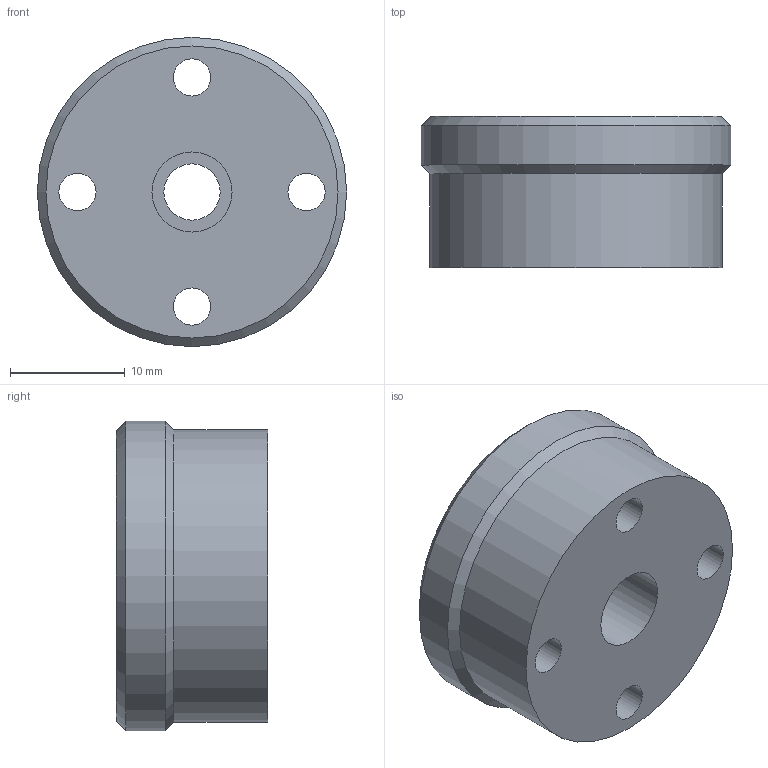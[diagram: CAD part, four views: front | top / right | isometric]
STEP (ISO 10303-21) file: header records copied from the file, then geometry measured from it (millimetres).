
FILE_DESCRIPTION((''),'2;1');
FILE_NAME('\\Darius-pc\darius\Schemos\05\5PHH50-1A1\STEP\5PHH50-1A1.stp','2009-10-14T11:07:06',('ramunas'),(''),'Autodesk Inventor 10','Autodesk Inventor 10','');
FILE_SCHEMA(('AUTOMOTIVE_DESIGN { 1 0 10303 214 1 1 1 1 }'));
Length unit declared in the file: millimetre
Products named in the file (1): 5PHH50-1A1.01
Bounding box: 27 x 13.2 x 27 mm (x, y, z)
Volume: 6138.9 mm3; surface area: 2843.9 mm2
Topology: 1 solids, 1 shells, 13 faces, 31 edges, 21 vertices
Faces by surface type: bspline 7, cone 2, cylinder 2, plane 2
Full cylindrical faces by diameter (mm): 25.5 x1, 27 x1
Entity records: 425 total; most frequent: CARTESIAN_POINT 153, DIRECTION 48, ORIENTED_EDGE 34, EDGE_LOOP 34, AXIS2_PLACEMENT_3D 24, FACE_BOUND 21, VERTEX_POINT 17, CIRCLE 17
